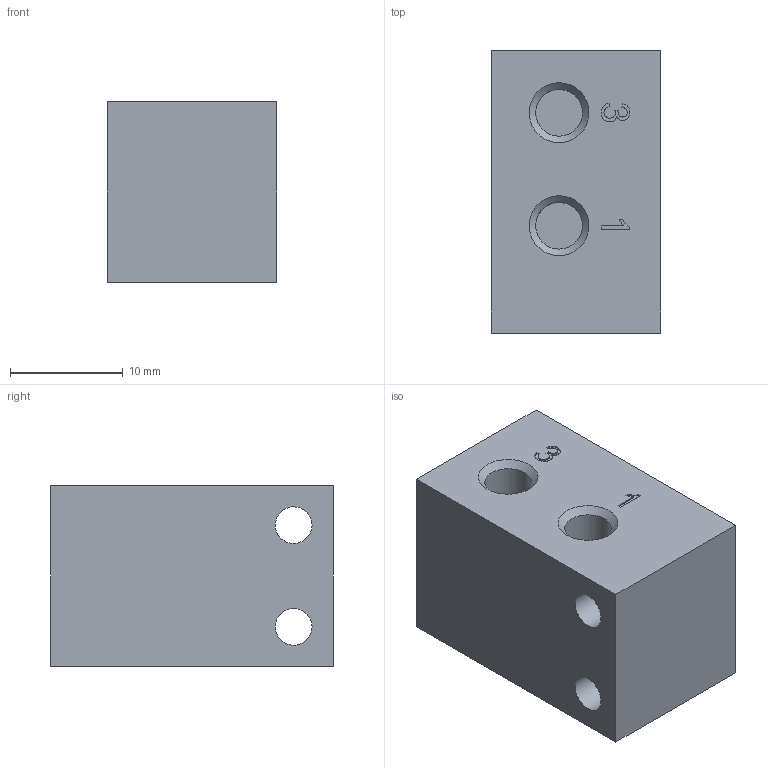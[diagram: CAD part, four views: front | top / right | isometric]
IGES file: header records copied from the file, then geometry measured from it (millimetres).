
Global section: file name: 355_01; native system: Autodesk Inventor 2014; preprocessor: unknown; organization: Pneumax S.p.A.; date: 20161003.101936; units: millimetre
Bounding box: 15 x 25 x 16 mm (x, y, z)
Volume: 5346.5 mm3; surface area: 2634.1 mm2
Topology: 1 solids, 1 shells, 67 faces, 181 edges, 124 vertices
Faces by surface type: bspline 67
